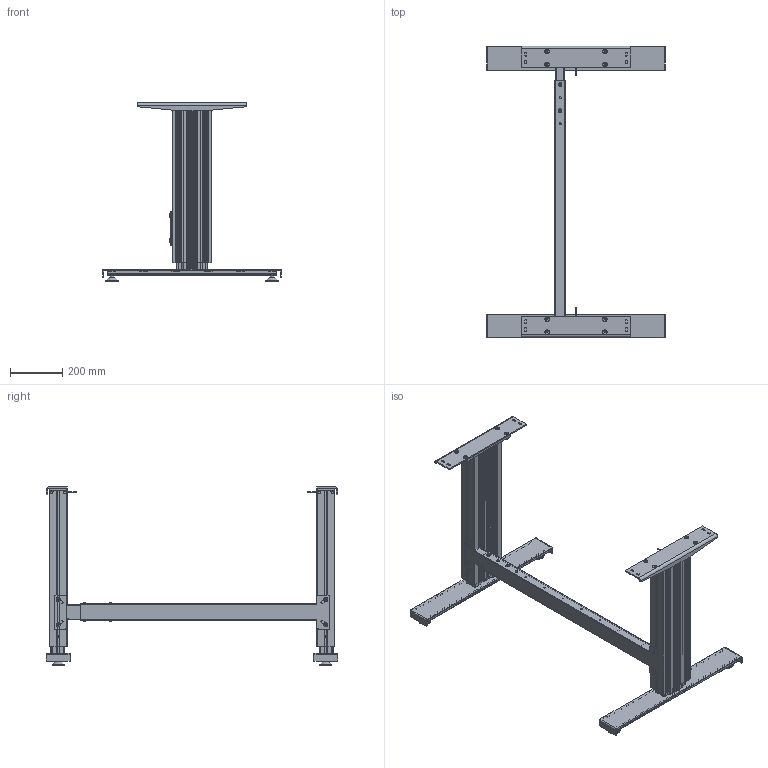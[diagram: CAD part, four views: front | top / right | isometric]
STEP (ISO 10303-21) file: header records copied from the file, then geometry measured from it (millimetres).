
FILE_DESCRIPTION(/* description */ ('Unknown'),/* implementation_level */ '2;1');
FILE_NAME(/* name */ '108.00312_01-Eingefahren',/* time_stamp */ '2022-02-10T09:22:22+01:00',/* author */ ('Unknown'),/* organization */ ('Unknown'),/* preprocessor_version */ 'ST-DEVELOPER v18.1',/* originating_system */ 'Solid Edge',/* authorisation */ 'Unknown');
FILE_SCHEMA (('AUTOMOTIVE_DESIGN {1 0 10303 214 3 1 1}'));
Products named in the file (35): 108.00312; 306.00804_oa_0; 126.00147; 119.00312; 119.00311; 142.00166; 142.00343; 113.00002; 124.00123; 107.00027_oa_1; 115.00007_oa_2; 306.00804_oa_3; 107.00027_oa_4; 115.00007_oa_5; 127.00635; 060339~2; 060340~3; Sechskantmutter M6 DIN 934; Scheibe Ø6,4 DIN 125; Halbrundkopfschraube mit Innensechskant M8x12 ISO 7380-1; Scheibe Ø8,4 DIN 125; Nutenstein M8_montiert; Halbrundkopfschraube mit Innensechskant und Bund M6x16 ISO 7380-2; 127.00545; 127.00548; 127.00566; 127.00567; 127.00548_461_469_Kehlnaht 1_oa_6; 113.00006; 113.00006-ohne Mutter; Mutter M10; 115.00165; 127.00223; 142.00279; 142.00068
Assembly tree (76 placements, depth 4):
  108.00312
    306.00804_oa_0
      126.00147
      119.00312
      119.00311
      142.00166  x4
      142.00343  x2
      113.00002
      124.00123
      107.00027_oa_1
        115.00007_oa_2
    306.00804_oa_3
      126.00147
      119.00312
      119.00311
      142.00166  x4
      142.00343  x2
      113.00002
      124.00123
      107.00027_oa_4
        115.00007_oa_5
    127.00635
      060339~2
      060340~3
      Sechskantmutter M6 DIN 934  x4
      Scheibe Ø6,4 DIN 125  x4
      Halbrundkopfschraube mit Innensechskant M8x12 ISO 7380-1  x4
      Scheibe Ø8,4 DIN 125  x4
      Nutenstein M8_montiert  x4
      Halbrundkopfschraube mit Innensechskant und Bund M6x16 ISO 7380-2  x4
    127.00545  x2
      127.00548
        127.00566
        127.00567
        127.00548_461_469_Kehlnaht 1_oa_6
      113.00006
        113.00006-ohne Mutter
        Mutter M10
    115.00165  x2
      127.00223
      142.00279
      142.00068
Bounding box: 680 x 1110 x 680 mm (x, y, z)
Volume: 7398710.1 mm3; surface area: 3856973.1 mm2
Topology: 102 solids, 102 shells, 6080 faces, 17067 edges, 11263 vertices
Faces by surface type: plane 3316, cylinder 2344, cone 234, torus 108, bspline 74, sphere 4
Full cylindrical faces by diameter (mm): 2.2 x2, 3.242 x4, 3.4 x2, 4 x6, 5 x10, 5.5 x8, 6 x8, 6.4 x4, 6.6 x2, 6.647 x12, 7 x16, 8 x18, 8.376 x10, 8.5 x28, 8.7 x8, 9 x8, 9.5 x4, 10 x4, 12 x4, 12.5 x2, 13.5 x2, 13.6 x4, 14 x4, 15 x4, 16.8 x4, 19 x4, 25 x14, 29 x4, 30 x4, 35 x4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
Entity records: 102406 total; most frequent: CARTESIAN_POINT 17486, ORIENTED_EDGE 15324, DIRECTION 15086, EDGE_CURVE 7662, VERTEX_POINT 5149, AXIS2_PLACEMENT_3D 5058, LINE 4970, VECTOR 4970
